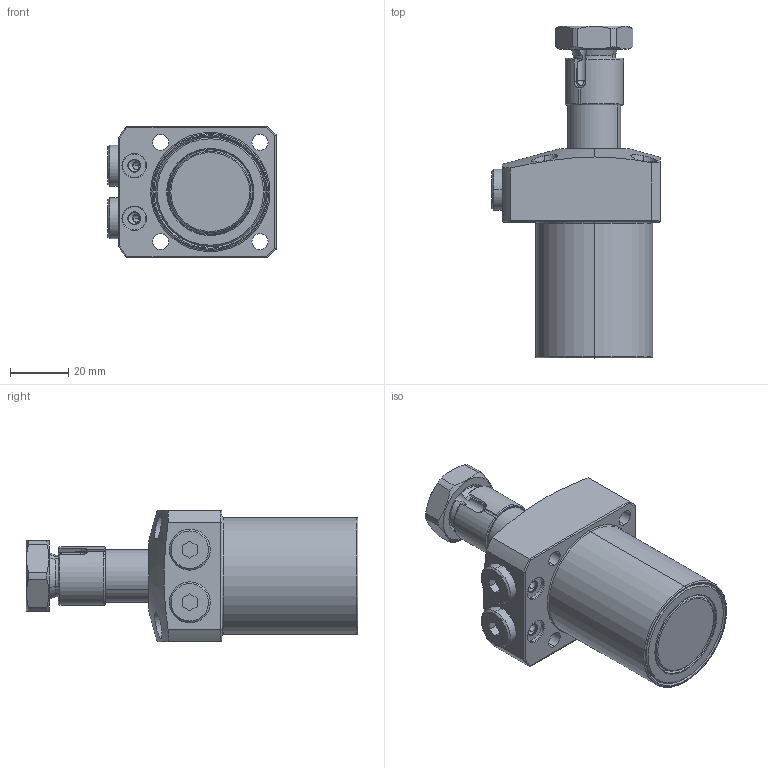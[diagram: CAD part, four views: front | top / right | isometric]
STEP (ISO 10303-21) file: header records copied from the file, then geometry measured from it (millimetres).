
FILE_DESCRIPTION(/* description */ (''),/* implementation_level */ '2;1');
FILE_NAME(/* name */ 'KTRC40-RN60.stp',/* time_stamp */ '2022-11-18T10:22:21+08:00',/* author */ (''),/* organization */ (''),/* preprocessor_version */ 'ST-DEVELOPER v16.7',/* originating_system */ 'SIEMENS PLM Software NX 12.0',/* authorisation */ '');
FILE_SCHEMA (('AP203_CONFIGURATION_CONTROLLED_3D_DESIGN_OF_MECHANICAL_PARTS_AND_ASSEMBLIES_MIM_LF { 1 0 10303 403 2 1 2}'));
Length unit declared in the file: millimetre
Products named in the file (7): KTRC40-RN60-05; KTRC40-RN60-06; KTRC40-RN60-02; KTRC40-RN60-03; KTRC40-RN60-04; KTRC40-RN60-01; LHA0400-CL-Y60_step
Assembly tree (7 placements, depth 2):
  LHA0400-CL-Y60_step
    KTRC40-RN60-01
    KTRC40-RN60-04
    KTRC40-RN60-03
    KTRC40-RN60-02
    KTRC40-RN60-06  x2
    KTRC40-RN60-05
Bounding box: 57.5 x 113.5 x 45 mm (x, y, z)
Volume: 122973.6 mm3; surface area: 26894.4 mm2
Topology: 7 solids, 7 shells, 238 faces, 569 edges, 357 vertices
Faces by surface type: cylinder 81, plane 78, cone 53, torus 24, sphere 2
Entity records: 8039 total; most frequent: CARTESIAN_POINT 1954, DIRECTION 1143, ORIENTED_EDGE 1078, EDGE_CURVE 539, AXIS2_PLACEMENT_3D 471, VERTEX_POINT 339, EDGE_LOOP 252, CIRCLE 238
